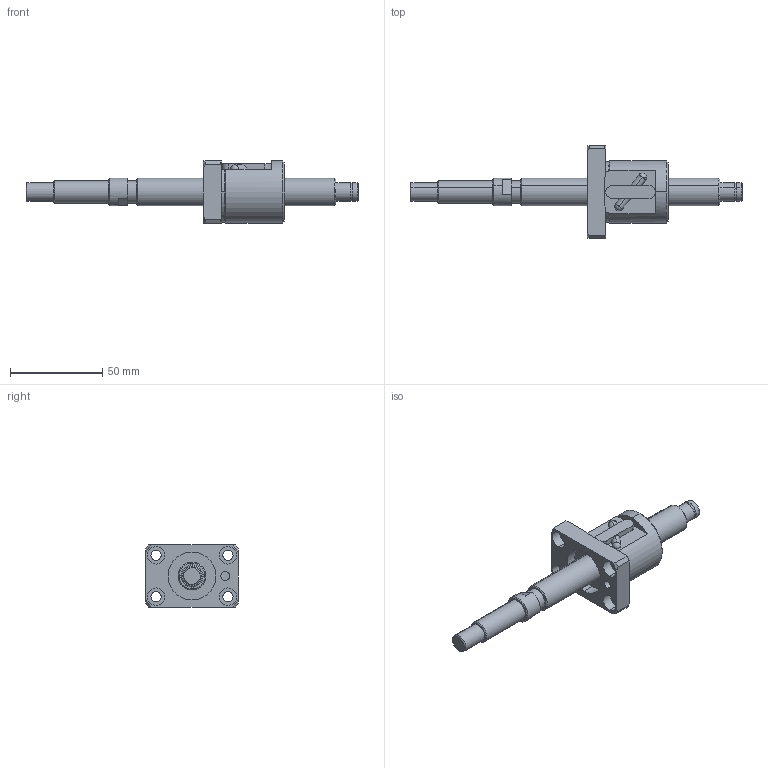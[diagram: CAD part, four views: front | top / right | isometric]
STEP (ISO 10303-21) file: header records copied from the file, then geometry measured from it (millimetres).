
FILE_DESCRIPTION (( 'STEP AP203' ), '1' );
FILE_NAME ('TS1505 assy_20160716.STEP', '2016-07-16T04:51:00', ( 'user' ), ( 'Hewlett-Packard Company' ), 'SwSTEP 2.0', 'SolidWorks 2014', '' );
FILE_SCHEMA (( 'CONFIG_CONTROL_DESIGN' ));
Length unit declared in the file: millimetre
Products named in the file (3): TS1505 screw; TS1505 nut; TS1505 assy_20160716
Assembly tree (2 placements, depth 2):
  TS1505 assy_20160716
    TS1505 screw
    TS1505 nut
Bounding box: 180 x 50 x 34 mm (x, y, z)
Volume: 58832.9 mm3; surface area: 20117.9 mm2
Topology: 2 solids, 2 shells, 125 faces, 301 edges, 193 vertices
Faces by surface type: cylinder 56, plane 38, cone 28, sphere 3
Entity records: 3998 total; most frequent: CARTESIAN_POINT 696, DIRECTION 679, ORIENTED_EDGE 594, EDGE_CURVE 297, AXIS2_PLACEMENT_3D 278, VERTEX_POINT 191, EDGE_LOOP 150, CIRCLE 148
